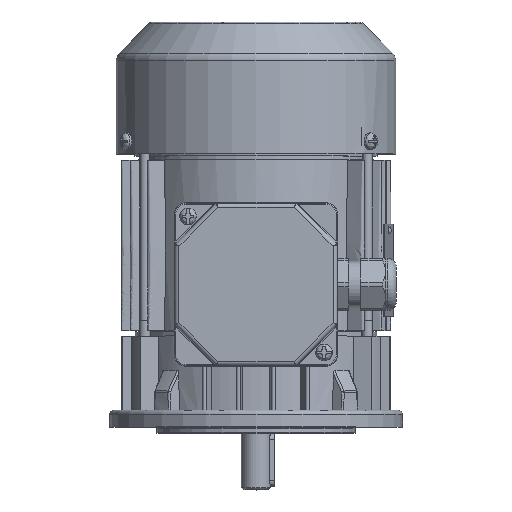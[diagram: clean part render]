
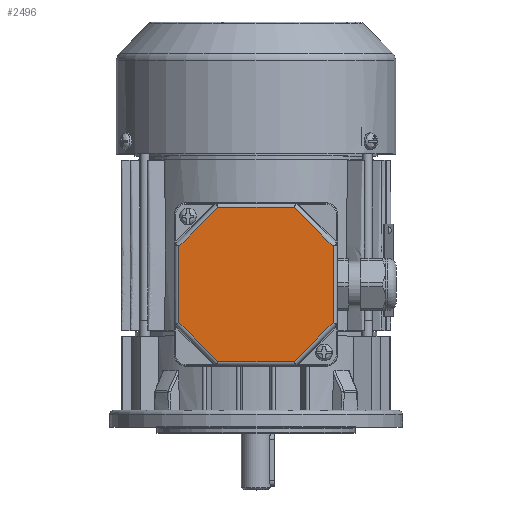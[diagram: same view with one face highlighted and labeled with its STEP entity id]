
A CAD part, top view. The second image highlights one B-rep face of the part: STEP entity #2496.
In plain terms, the highlighted planar face has unit normal (0, 0, 1).
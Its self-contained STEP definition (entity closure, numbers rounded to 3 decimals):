
#2496 = ADVANCED_FACE( '', ( #5358 ), #5359, .T. );
#5358 = FACE_OUTER_BOUND( '', #12338, .T. );
#5359 = PLANE( '', #12339 );
#12338 = EDGE_LOOP( '', ( #23534, #23535, #23536, #23537, #23538, #23539, #23540, #23541 ) );
#12339 = AXIS2_PLACEMENT_3D( '', #23542, #23543, #23544 );
#23534 = ORIENTED_EDGE( '', *, *, #33624, .T. );
#23535 = ORIENTED_EDGE( '', *, *, #33625, .T. );
#23536 = ORIENTED_EDGE( '', *, *, #33626, .T. );
#23537 = ORIENTED_EDGE( '', *, *, #32673, .T. );
#23538 = ORIENTED_EDGE( '', *, *, #33498, .T. );
#23539 = ORIENTED_EDGE( '', *, *, #33627, .T. );
#23540 = ORIENTED_EDGE( '', *, *, #33628, .T. );
#23541 = ORIENTED_EDGE( '', *, *, #33629, .T. );
#23542 = CARTESIAN_POINT( '', ( -39., 39., 12. ) );
#23543 = DIRECTION( '', ( 0., 0., 1. ) );
#23544 = DIRECTION( '', ( 1., 0., 0. ) );
#32673 = EDGE_CURVE( '', #42912, #42254, #42913, .T. );
#33498 = EDGE_CURVE( '', #42254, #44247, #44248, .F. );
#33624 = EDGE_CURVE( '', #43790, #44433, #44434, .F. );
#33625 = EDGE_CURVE( '', #44433, #43449, #44435, .T. );
#33626 = EDGE_CURVE( '', #43449, #42912, #44436, .F. );
#33627 = EDGE_CURVE( '', #44247, #44437, #44438, .T. );
#33628 = EDGE_CURVE( '', #44437, #44439, #44440, .F. );
#33629 = EDGE_CURVE( '', #44439, #43790, #44441, .T. );
#42254 = VERTEX_POINT( '', #51053 );
#42912 = VERTEX_POINT( '', #52941 );
#42913 = LINE( '', #52942, #52943 );
#43449 = VERTEX_POINT( '', #54396 );
#43790 = VERTEX_POINT( '', #55372 );
#44247 = VERTEX_POINT( '', #56629 );
#44248 = LINE( '', #56630, #56631 );
#44433 = VERTEX_POINT( '', #56950 );
#44434 = LINE( '', #56951, #56952 );
#44435 = LINE( '', #56953, #56954 );
#44436 = LINE( '', #56955, #56956 );
#44437 = VERTEX_POINT( '', #56957 );
#44438 = LINE( '', #56958, #56959 );
#44439 = VERTEX_POINT( '', #56960 );
#44440 = LINE( '', #56961, #56962 );
#44441 = LINE( '', #56963, #56964 );
#51053 = CARTESIAN_POINT( '', ( -36.825, 18.255, 12. ) );
#52941 = CARTESIAN_POINT( '', ( -18.255, 36.825, 12. ) );
#52942 = CARTESIAN_POINT( '', ( -37.401, 17.679, 12. ) );
#52943 = VECTOR( '', #67139, 1000. );
#54396 = CARTESIAN_POINT( '', ( 18.255, 36.825, 12. ) );
#55372 = CARTESIAN_POINT( '', ( 36.825, -18.255, 12. ) );
#56629 = CARTESIAN_POINT( '', ( -36.825, -18.255, 12. ) );
#56630 = CARTESIAN_POINT( '', ( -36.825, -19.069, 12. ) );
#56631 = VECTOR( '', #68178, 1000. );
#56950 = CARTESIAN_POINT( '', ( 36.825, 18.255, 12. ) );
#56951 = CARTESIAN_POINT( '', ( 36.825, 19.069, 12. ) );
#56952 = VECTOR( '', #68327, 1000. );
#56953 = CARTESIAN_POINT( '', ( 17.679, 37.401, 12. ) );
#56954 = VECTOR( '', #68328, 1000. );
#56955 = CARTESIAN_POINT( '', ( -19.069, 36.825, 12. ) );
#56956 = VECTOR( '', #68329, 1000. );
#56957 = CARTESIAN_POINT( '', ( -18.255, -36.825, 12. ) );
#56958 = CARTESIAN_POINT( '', ( -17.679, -37.401, 12. ) );
#56959 = VECTOR( '', #68330, 1000. );
#56960 = CARTESIAN_POINT( '', ( 18.255, -36.825, 12. ) );
#56961 = CARTESIAN_POINT( '', ( 19.069, -36.825, 12. ) );
#56962 = VECTOR( '', #68331, 1000. );
#56963 = CARTESIAN_POINT( '', ( 37.401, -17.679, 12. ) );
#56964 = VECTOR( '', #68332, 1000. );
#67139 = DIRECTION( '', ( -0.707, -0.707, 0. ) );
#68178 = DIRECTION( '', ( 0., 1., 0. ) );
#68327 = DIRECTION( '', ( 0., -1., 0. ) );
#68328 = DIRECTION( '', ( -0.707, 0.707, 0. ) );
#68329 = DIRECTION( '', ( 1., 0., 0. ) );
#68330 = DIRECTION( '', ( 0.707, -0.707, 0. ) );
#68331 = DIRECTION( '', ( -1., 0., 0. ) );
#68332 = DIRECTION( '', ( 0.707, 0.707, 0. ) );
